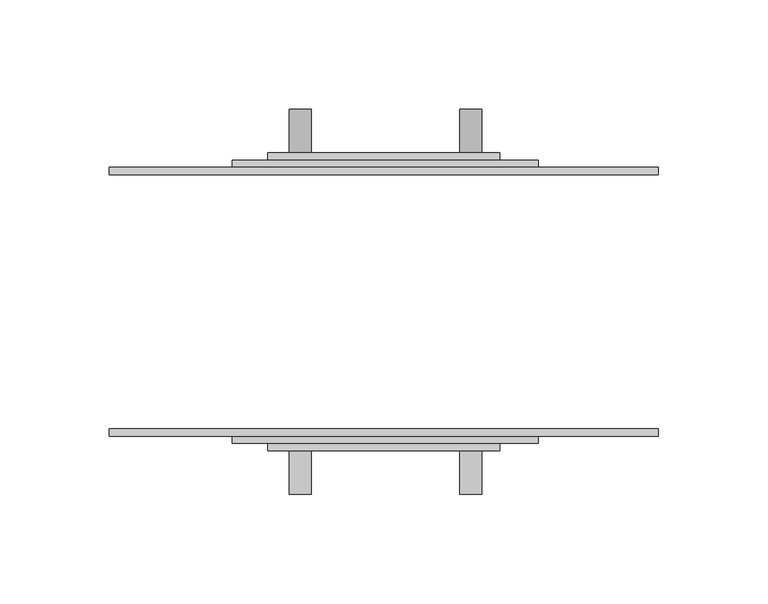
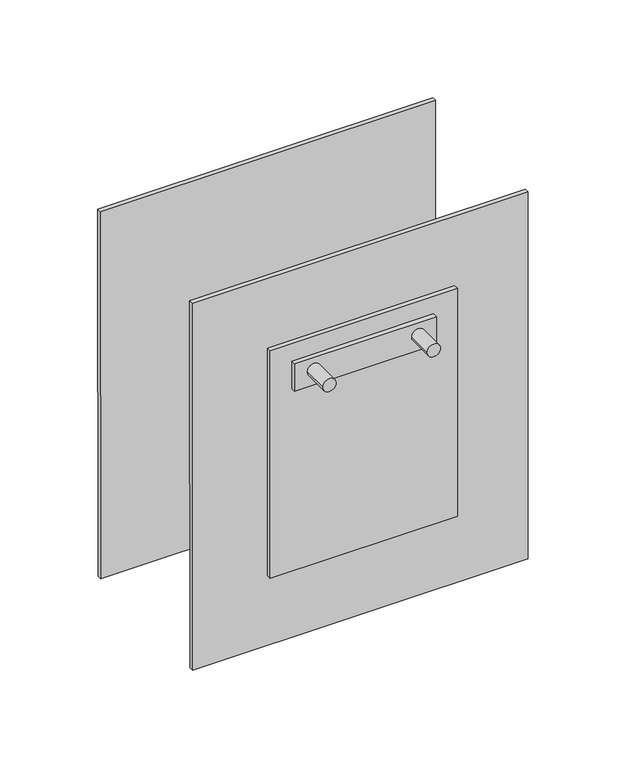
"""IFC4 building model written with IfcOpenShell, lengths in millimetres: proxy geometry, Distribution_Socket_Single_rotated : Distribution_Socket_Single_rotated."""

from ifc_helpers import new_model, si_unit, point, frame, frame_2d, origin, place, context, project, spatial, polyline, circle_curve, trimmed, segment, composite_curve, outline, extrude, source, transform, mapped, element, save


def electrical_equipment_ff54cd8f(model_context):
    return source(origin(), model_context, "Body", "SweptSolid", [
        extrude(outline(composite_curve([segment(trimmed(circle_curve(frame_2d((65.9108106, -38.3495044)), 5.0), [point((65.9071337, -43.349503))], [point((65.9144874, -33.3495057))], False, "CARTESIAN"), True, "CONTINUOUS"), segment(trimmed(circle_curve(frame_2d((65.9108106, -38.3495044)), 5.0), [point((65.9144874, -33.3495057))], [point((65.9071337, -43.349503))], False, "CARTESIAN"), True, "CONTINUOUS")], self_intersect=False)), frame((0.0, 67.0, 0.0), z_axis=(0.0, 1.0, 0.0), x_axis=(0.0, 0.0, 1.0)), (0.0, 0.0, 1.0), 20.9),
        extrude(outline(composite_curve([segment(trimmed(circle_curve(frame_2d((65.9681666, 39.6461612)), 5.0), [point((65.9644897, 34.6461626))], [point((65.9718434, 44.6461599))], False, "CARTESIAN"), True, "CONTINUOUS"), segment(trimmed(circle_curve(frame_2d((65.9681666, 39.6461612)), 5.0), [point((65.9718434, 44.6461599))], [point((65.9644897, 34.6461626))], False, "CARTESIAN"), True, "CONTINUOUS")], self_intersect=False)), frame((0.0, 67.0, 0.0), z_axis=(0.0, 1.0, 0.0), x_axis=(0.0, 0.0, 1.0)), (0.0, 0.0, 1.0), 20.9),
        extrude(outline(composite_curve([segment(trimmed(circle_curve(frame_2d((65.9108106, -38.3495044)), 5.0), [point((65.9071337, -43.349503))], [point((65.9144874, -33.3495057))], False, "CARTESIAN"), True, "CONTINUOUS"), segment(trimmed(circle_curve(frame_2d((65.9108106, -38.3495044)), 5.0), [point((65.9144874, -33.3495057))], [point((65.9071337, -43.349503))], False, "CARTESIAN"), True, "CONTINUOUS")], self_intersect=False)), frame((0.0, -87.9, 0.0), z_axis=(0.0, 1.0, 0.0), x_axis=(0.0, 0.0, 1.0)), (0.0, 0.0, 1.0), 20.9),
        extrude(outline(composite_curve([segment(trimmed(circle_curve(frame_2d((65.9681666, 39.6461612)), 5.0), [point((65.9644897, 34.6461626))], [point((65.9718434, 44.6461599))], False, "CARTESIAN"), True, "CONTINUOUS"), segment(trimmed(circle_curve(frame_2d((65.9681666, 39.6461612)), 5.0), [point((65.9718434, 44.6461599))], [point((65.9644897, 34.6461626))], False, "CARTESIAN"), True, "CONTINUOUS")], self_intersect=False)), frame((0.0, -87.9, 0.0), z_axis=(0.0, 1.0, 0.0), x_axis=(0.0, 0.0, 1.0)), (0.0, 0.0, 1.0), 20.9),
        extrude(outline(polyline([(106.0000706, 0.0), (106.0000706, -3.3705022), (0.0, -3.3705022), (0.0, 0.0), (106.0000706, 0.0)])), frame((-53.0397311, 68.1115, 53.9610106), z_axis=(-0.0007353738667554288, 0.0, 0.9999997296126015), x_axis=(0.9999997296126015, 0.0, 0.0007353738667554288)), (0.0, 0.0, 1.0), 22.0),
        extrude(outline(polyline([(106.0000706, -136.223), (0.0, -136.223), (0.0, -132.8524978), (106.0000706, -132.8524978), (106.0000706, -136.223)])), frame((-53.0397311, 68.1115, 53.9610106), z_axis=(-0.0007353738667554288, 0.0, 0.9999997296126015), x_axis=(0.9999997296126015, 0.0, 0.0007353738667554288)), (0.0, 0.0, 1.0), 22.0),
        extrude(outline(polyline([(3.3704978, 0.0), (3.3704978, -140.0000302), (0.0, -140.0000302), (0.0, 0.0), (3.3704978, 0.0)])), frame((-69.3139377, 61.3705, -90.050996), z_axis=(-0.0007353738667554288, 0.0, 0.9999997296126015), x_axis=(0.0, 1.0, 0.0)), (0.0, 0.0, 1.0), 180.0),
        extrude(outline(polyline([(-126.1114978, 0.0), (-122.7410004, 0.0), (-122.7410004, -140.0000302), (-126.1114978, -140.0000302), (-126.1114978, 0.0)])), frame((-69.3139377, 61.3705, -90.050996), z_axis=(-0.0007353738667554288, 0.0, 0.9999997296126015), x_axis=(0.0, 1.0, 0.0)), (0.0, 0.0, 1.0), 180.0),
        extrude(outline(polyline([(250.7451946, 0.0), (250.7451946, -3.3705), (0.0, -3.3705), (0.0, 0.0), (250.7451946, 0.0)])), frame((-125.2659342, 61.3705, -145.0921565), z_axis=(-0.0007353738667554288, 0.0, 0.9999997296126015), x_axis=(0.9999997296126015, 0.0, 0.0007353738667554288)), (0.0, 0.0, 1.0), 290.0),
        extrude(outline(polyline([(0.0, -122.7410004), (0.0, -119.3705), (250.7451946, -119.3705), (250.7451946, -122.7410004), (0.0, -122.7410004)])), frame((-125.2659342, 61.3705, -145.0921565), z_axis=(-0.0007353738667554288, 0.0, 0.9999997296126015), x_axis=(0.9999997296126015, 0.0, 0.0007353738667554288)), (0.0, 0.0, 1.0), 290.0),
    ])


if __name__ == "__main__":
    model = new_model("IFC4")
    model_context = context("Model", 3, world=origin())
    ifc_project = project(units=[si_unit("LENGTHUNIT", "METRE", prefix="MILLI")], contexts=[model_context])
    site = spatial("IfcSite", under=ifc_project)
    building = spatial("IfcBuilding", under=site)
    placement = place(None, origin())
    electrical_equipment_shape = electrical_equipment_ff54cd8f(model_context)
    element("IfcBuildingElementProxy", 1, Name="Distribution_Socket_Single_rotated : Distribution_Socket_Single_rotated", ObjectType="Distribution_Socket_Single_rotated : Distribution_Socket_Single_rotated", at=placement, inside=building, context=model_context, shape_type="MappedRepresentation", body=[
        mapped(electrical_equipment_shape, transform((0.0, 0.0, 0.0), x_axis=(1.0, 0.0, 0.0), y_axis=(0.0, 1.0, 0.0), z_axis=(0.0, 0.0, 1.0))),
    ])
    save(model, "model.ifc")
